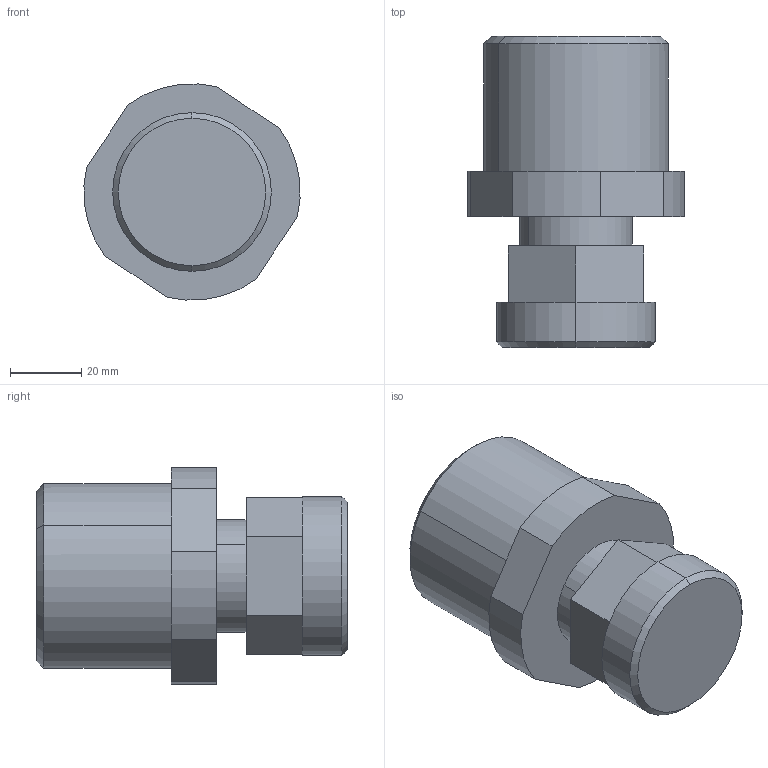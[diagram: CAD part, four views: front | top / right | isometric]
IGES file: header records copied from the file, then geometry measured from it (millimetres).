
Start section: SolidWorks IGES file using analytic representation for surfaces
Global section: file name: S:\Product Visuals\REVISED-60L-TOP-MOUNT-FITTINGS\IGS\pillar-s-300\20-pillar-s-300-with-top-mount-adapter.IGS; native system: SolidWorks 2012; preprocessor: SolidWorks 2012; author: rachel.dressel; date: 121127.132814; units: inch
Bounding box: 60.86 x 87.57 x 60.86 mm (x, y, z)
Volume: 130678.7 mm3; surface area: 24942.4 mm2
Topology: 1 solids, 1 shells, 36 faces, 80 edges, 52 vertices
Faces by surface type: revolution 18, plane 18
